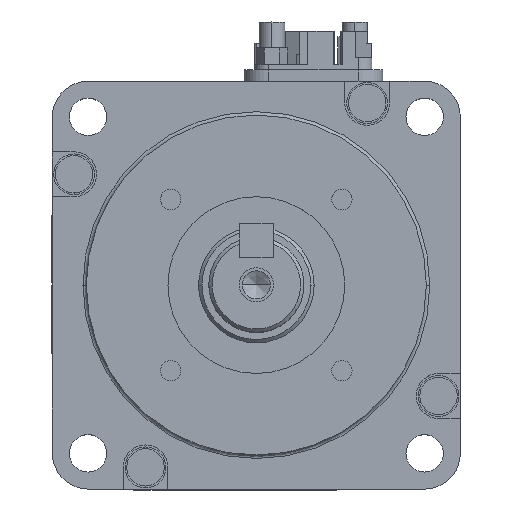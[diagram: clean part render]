
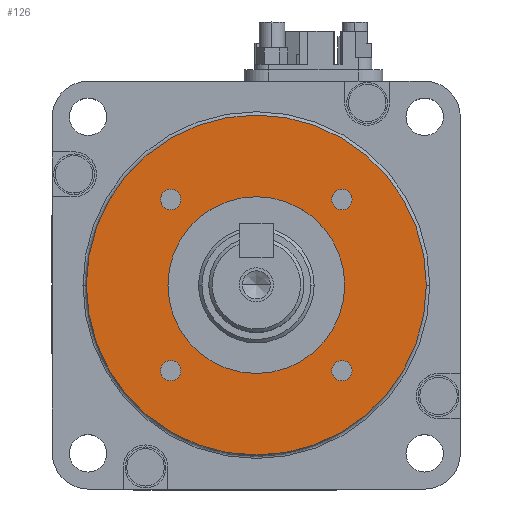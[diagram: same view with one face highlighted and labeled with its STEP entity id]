
A CAD part, top view. The second image highlights one B-rep face of the part: STEP entity #126.
In plain terms, the highlighted planar face has unit normal (0, 0, 1).
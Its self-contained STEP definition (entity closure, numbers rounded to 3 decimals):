
#126=ADVANCED_FACE('',(#700,#701,#702,#703,#704,#705),#699,.T.);
#699=PLANE('',#5159);
#700=FACE_OUTER_BOUND('',#5160,.T.);
#701=FACE_BOUND('',#5161,.T.);
#702=FACE_BOUND('',#5162,.T.);
#703=FACE_BOUND('',#5163,.T.);
#704=FACE_BOUND('',#5164,.T.);
#705=FACE_BOUND('',#5165,.T.);
#5156=CARTESIAN_POINT('',(-57.5,-51.962,3.));
#5157=DIRECTION('',(0.,0.,1.));
#5158=DIRECTION('',(1.,0.,0.));
#5159=AXIS2_PLACEMENT_3D('',#5156,#5157,#5158);
#5160=EDGE_LOOP('',(#7500,#7501));
#5161=EDGE_LOOP('',(#7502,#7503));
#5162=EDGE_LOOP('',(#7504,#7505));
#5163=EDGE_LOOP('',(#7506,#7507));
#5164=EDGE_LOOP('',(#7508,#7509));
#5165=EDGE_LOOP('',(#7510,#7511));
#7500=ORIENTED_EDGE('',*,*,#9829,.T.);
#7501=ORIENTED_EDGE('',*,*,#9830,.T.);
#7502=ORIENTED_EDGE('',*,*,#9831,.F.);
#7503=ORIENTED_EDGE('',*,*,#9832,.F.);
#7504=ORIENTED_EDGE('',*,*,#9833,.F.);
#7505=ORIENTED_EDGE('',*,*,#9834,.F.);
#7506=ORIENTED_EDGE('',*,*,#9835,.F.);
#7507=ORIENTED_EDGE('',*,*,#9836,.F.);
#7508=ORIENTED_EDGE('',*,*,#9837,.F.);
#7509=ORIENTED_EDGE('',*,*,#9838,.F.);
#7510=ORIENTED_EDGE('',*,*,#9839,.F.);
#7511=ORIENTED_EDGE('',*,*,#9840,.F.);
#9829=EDGE_CURVE('',#11230,#11231,#11232,.T.);
#9830=EDGE_CURVE('',#11231,#11230,#11238,.T.);
#9831=EDGE_CURVE('',#11244,#11245,#11246,.T.);
#9832=EDGE_CURVE('',#11245,#11244,#11252,.T.);
#9833=EDGE_CURVE('',#11258,#11259,#11260,.T.);
#9834=EDGE_CURVE('',#11259,#11258,#11266,.T.);
#9835=EDGE_CURVE('',#11272,#11273,#11274,.T.);
#9836=EDGE_CURVE('',#11273,#11272,#11280,.T.);
#9837=EDGE_CURVE('',#11286,#11287,#11288,.T.);
#9838=EDGE_CURVE('',#11287,#11286,#11294,.T.);
#9839=EDGE_CURVE('',#11300,#11301,#11302,.T.);
#9840=EDGE_CURVE('',#11301,#11300,#11308,.T.);
#11230=VERTEX_POINT('',#18996);
#11231=VERTEX_POINT('',#18997);
#11232=CIRCLE('',#19001,25.);
#11238=CIRCLE('',#19005,25.);
#11244=VERTEX_POINT('',#19006);
#11245=VERTEX_POINT('',#19007);
#11246=CIRCLE('',#19011,1.5);
#11252=CIRCLE('',#19015,1.5);
#11258=VERTEX_POINT('',#19016);
#11259=VERTEX_POINT('',#19017);
#11260=CIRCLE('',#19021,1.5);
#11266=CIRCLE('',#19025,1.5);
#11272=VERTEX_POINT('',#19026);
#11273=VERTEX_POINT('',#19027);
#11274=CIRCLE('',#19031,1.5);
#11280=CIRCLE('',#19035,1.5);
#11286=VERTEX_POINT('',#19036);
#11287=VERTEX_POINT('',#19037);
#11288=CIRCLE('',#19041,1.5);
#11294=CIRCLE('',#19045,1.5);
#11300=VERTEX_POINT('',#19046);
#11301=VERTEX_POINT('',#19047);
#11302=CIRCLE('',#19051,13.);
#11308=CIRCLE('',#19055,13.);
#18996=CARTESIAN_POINT('',(25.,0.,3.));
#18997=CARTESIAN_POINT('',(-25.,0.,3.));
#18998=CARTESIAN_POINT('',(0.,0.,3.));
#18999=DIRECTION('',(0.,0.,1.));
#19000=DIRECTION('',(1.,0.,0.));
#19001=AXIS2_PLACEMENT_3D('',#18998,#18999,#19000);
#19002=CARTESIAN_POINT('',(0.,0.,3.));
#19003=DIRECTION('',(0.,0.,1.));
#19004=DIRECTION('',(1.,0.,0.));
#19005=AXIS2_PLACEMENT_3D('',#19002,#19003,#19004);
#19006=CARTESIAN_POINT('',(14.087,-12.587,3.));
#19007=CARTESIAN_POINT('',(11.087,-12.587,3.));
#19008=CARTESIAN_POINT('',(12.587,-12.587,3.));
#19009=DIRECTION('',(0.,0.,1.));
#19010=DIRECTION('',(-1.,0.,0.));
#19011=AXIS2_PLACEMENT_3D('',#19008,#19009,#19010);
#19012=CARTESIAN_POINT('',(12.587,-12.587,3.));
#19013=DIRECTION('',(0.,0.,1.));
#19014=DIRECTION('',(-1.,0.,0.));
#19015=AXIS2_PLACEMENT_3D('',#19012,#19013,#19014);
#19016=CARTESIAN_POINT('',(-11.087,-12.587,3.));
#19017=CARTESIAN_POINT('',(-14.087,-12.587,3.));
#19018=CARTESIAN_POINT('',(-12.587,-12.587,3.));
#19019=DIRECTION('',(0.,0.,1.));
#19020=DIRECTION('',(-1.,0.,0.));
#19021=AXIS2_PLACEMENT_3D('',#19018,#19019,#19020);
#19022=CARTESIAN_POINT('',(-12.587,-12.587,3.));
#19023=DIRECTION('',(0.,0.,1.));
#19024=DIRECTION('',(-1.,0.,0.));
#19025=AXIS2_PLACEMENT_3D('',#19022,#19023,#19024);
#19026=CARTESIAN_POINT('',(-11.087,12.587,3.));
#19027=CARTESIAN_POINT('',(-14.087,12.587,3.));
#19028=CARTESIAN_POINT('',(-12.587,12.587,3.));
#19029=DIRECTION('',(0.,0.,1.));
#19030=DIRECTION('',(-1.,0.,0.));
#19031=AXIS2_PLACEMENT_3D('',#19028,#19029,#19030);
#19032=CARTESIAN_POINT('',(-12.587,12.587,3.));
#19033=DIRECTION('',(0.,0.,1.));
#19034=DIRECTION('',(-1.,0.,0.));
#19035=AXIS2_PLACEMENT_3D('',#19032,#19033,#19034);
#19036=CARTESIAN_POINT('',(14.087,12.587,3.));
#19037=CARTESIAN_POINT('',(11.087,12.587,3.));
#19038=CARTESIAN_POINT('',(12.587,12.587,3.));
#19039=DIRECTION('',(0.,0.,1.));
#19040=DIRECTION('',(-1.,0.,0.));
#19041=AXIS2_PLACEMENT_3D('',#19038,#19039,#19040);
#19042=CARTESIAN_POINT('',(12.587,12.587,3.));
#19043=DIRECTION('',(0.,0.,1.));
#19044=DIRECTION('',(-1.,0.,0.));
#19045=AXIS2_PLACEMENT_3D('',#19042,#19043,#19044);
#19046=CARTESIAN_POINT('',(13.,0.,3.));
#19047=CARTESIAN_POINT('',(-13.,0.,3.));
#19048=CARTESIAN_POINT('',(0.,0.,3.));
#19049=DIRECTION('',(0.,0.,1.));
#19050=DIRECTION('',(-1.,0.,0.));
#19051=AXIS2_PLACEMENT_3D('',#19048,#19049,#19050);
#19052=CARTESIAN_POINT('',(0.,0.,3.));
#19053=DIRECTION('',(0.,0.,1.));
#19054=DIRECTION('',(-1.,0.,0.));
#19055=AXIS2_PLACEMENT_3D('',#19052,#19053,#19054);
